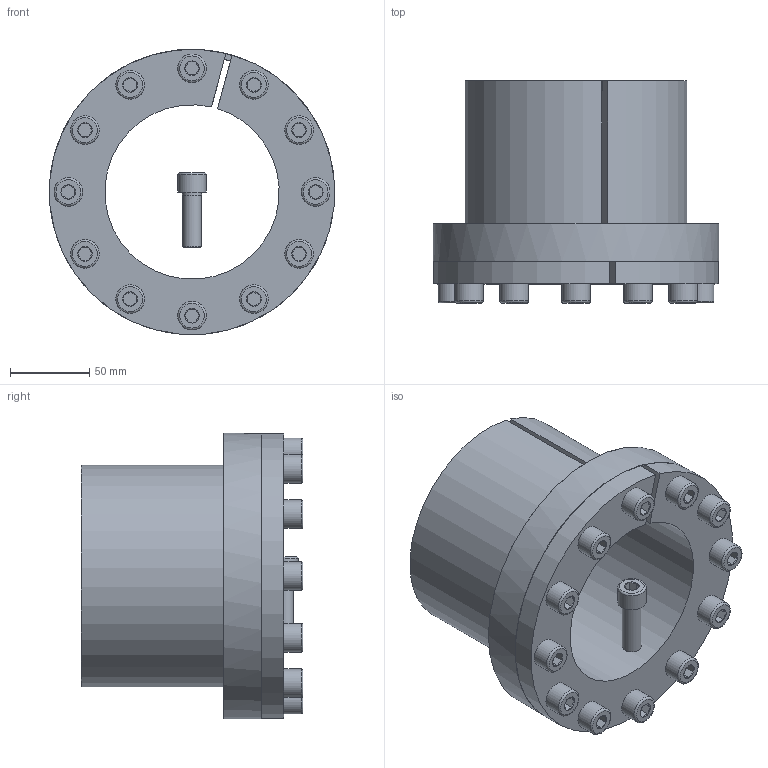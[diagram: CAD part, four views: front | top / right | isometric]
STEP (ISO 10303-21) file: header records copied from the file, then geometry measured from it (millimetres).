
FILE_DESCRIPTION( ( 'Unknown' ), '1' );
FILE_NAME( 'C:/Dokumente und Einstellungen/Sven/Desktop/homepage/cad - homepage/KBS80/KBS 80 - 110 x 140.stp', 'Unknown', ( 'Unknown' ), ( 'Unknown' ), 'XStep 1.0', 'Unknown', ' ' );
FILE_SCHEMA( ( 'automotive_design' ) );
Length unit declared in the file: millimetre
Products named in the file (14): Assem1; KBS 80 - 110 x 140; ISO EN DIN 4762 M12x35; ISO EN DIN 4762 M12x35-oa0; ISO EN DIN 4762 M12x35-oa1; ISO EN DIN 4762 M12x35-oa2; ISO EN DIN 4762 M12x35-oa3; ISO EN DIN 4762 M12x35-oa4; ISO EN DIN 4762 M12x35-oa5; ISO EN DIN 4762 M12x35-oa6; ISO EN DIN 4762 M12x35-oa7; ISO EN DIN 4762 M12x35-oa8; ISO EN DIN 4762 M12x35-oa9; ISO EN DIN 4762 M12x35-oa10
Bounding box: 180 x 140 x 180 mm (x, y, z)
Volume: 2298622.3 mm3; surface area: 376038.3 mm2
Topology: 26 solids, 26 shells, 664 faces, 1230 edges, 712 vertices
Faces by surface type: plane 304, cone 182, cylinder 130, torus 48
Full cylindrical faces by diameter (mm): 11 x24, 12 x72, 18 x24, 180 x2
Entity records: 8243 total; most frequent: CARTESIAN_POINT 1741, DIRECTION 1348, ORIENTED_EDGE 978, AXIS2_PLACEMENT_3D 593, EDGE_LOOP 505, EDGE_CURVE 489, FACE_OUTER_BOUND 417, ADVANCED_FACE 332
